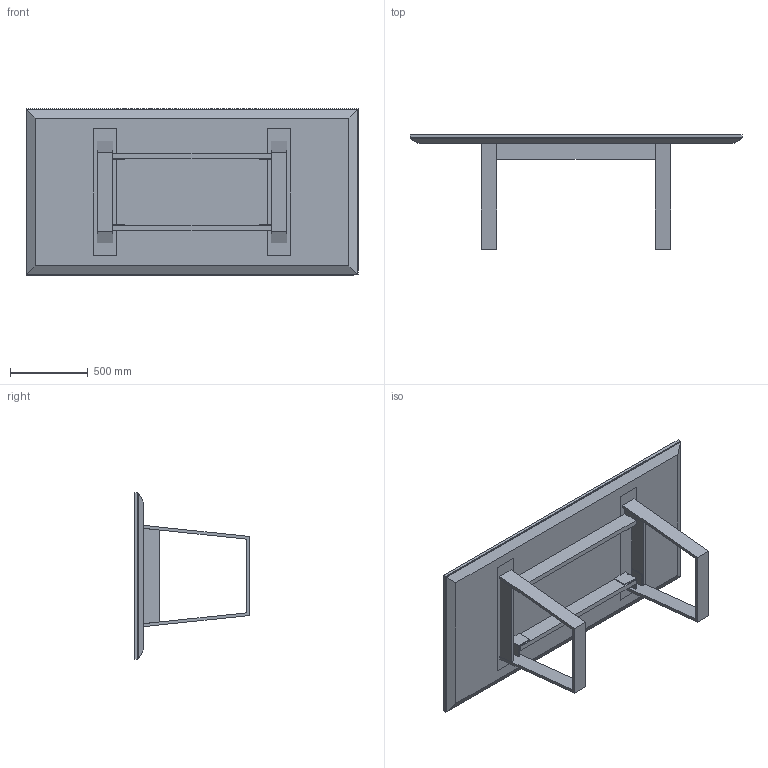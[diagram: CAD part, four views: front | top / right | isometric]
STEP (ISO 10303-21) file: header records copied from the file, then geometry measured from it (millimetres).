
FILE_DESCRIPTION(/* description */ ('','CAx-IF Rec.Pracs.---Representation and Presentation of Product Manufacturing Information (PMI)---4.0---2014-10-13'),/* implementation_level */ '2;1');
FILE_NAME(/* name */ 'TABLE_IMPRESS 5.stp',/* time_stamp */ '2024-12-07T16:03:58-05:00',/* author */ ('mbowman'),/* organization */ (''),/* preprocessor_version */ 'ST-DEVELOPER v19.2',/* originating_system */ 'Autodesk Inventor 2023',/* authorisation */ '');
FILE_SCHEMA (('AP242_MANAGED_MODEL_BASED_3D_ENGINEERING_MIM_LF { 1 0 10303 442 1 1 4 }'));
Length unit declared in the file: inch
Products named in the file (5): IMPRESS^TABLE 5_42x84 RECT-SOLID ASSEMBLY (KEELS); IMPRESS^TABLE 5_42x84 RECT-PARTS SOLID; IMPRESS^TABLE 5_ANGLE LOOP BASE-KEEL PLATES; IMPRESS^TABLE 5_42x84 RECT-KEEL SOLID; IMPRESS^TABLE 1_42x96 RECT-KEEL END SOLID
Assembly tree (7 placements, depth 2):
  IMPRESS^TABLE 5_42x84 RECT-SOLID ASSEMBLY (KEELS)
    IMPRESS^TABLE 5_42x84 RECT-PARTS SOLID
    IMPRESS^TABLE 5_ANGLE LOOP BASE-KEEL PLATES  x2
    IMPRESS^TABLE 5_42x84 RECT-KEEL SOLID  x2
    IMPRESS^TABLE 1_42x96 RECT-KEEL END SOLID  x2
Bounding box: 2133.6 x 736.6 x 1066.8 mm (x, y, z)
Volume: 140782566.6 mm3; surface area: 11788055.8 mm2
Topology: 8 solids, 8 shells, 122 faces, 312 edges, 204 vertices
Faces by surface type: plane 122
Entity records: 2872 total; most frequent: CARTESIAN_POINT 581, DIRECTION 388, ORIENTED_EDGE 368, LINE 184, VECTOR 184, EDGE_CURVE 184, VERTEX_POINT 120, STYLED_ITEM 110
